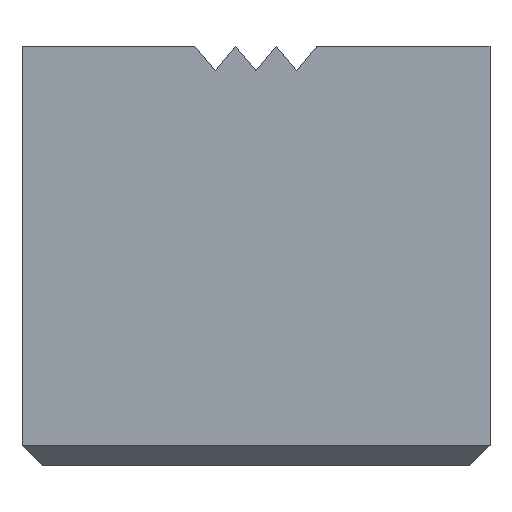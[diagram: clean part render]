
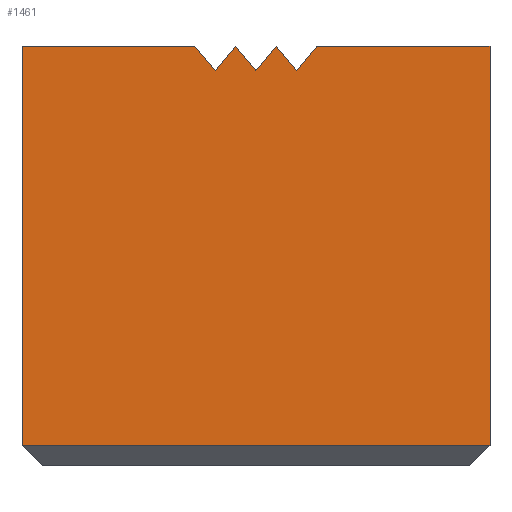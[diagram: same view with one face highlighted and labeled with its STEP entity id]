
A CAD part, front view. The second image highlights one B-rep face of the part: STEP entity #1461.
In plain terms, the highlighted planar face has unit normal (0, -1, 0).
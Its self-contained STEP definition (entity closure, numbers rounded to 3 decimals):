
#437=CARTESIAN_POINT('',(-4.765,-4.765,-2.675));
#438=VERTEX_POINT('',#437);
#445=CARTESIAN_POINT('',(-4.765,-4.765,7.145));
#446=VERTEX_POINT('',#445);
#447=CARTESIAN_POINT('',(-4.765,-4.765,-2.675));
#448=DIRECTION('',(0.0,0.0,1.0));
#449=VECTOR('',#448,9.82);
#450=LINE('',#447,#449);
#451=EDGE_CURVE('',#438,#446,#450,.T.);
#491=CARTESIAN_POINT('',(2.487,-4.765,7.145));
#492=VERTEX_POINT('',#491);
#499=CARTESIAN_POINT('',(6.745,-4.765,7.145));
#500=VERTEX_POINT('',#499);
#501=CARTESIAN_POINT('',(6.745,-4.765,7.145));
#502=DIRECTION('',(-1.0,0.0,0.0));
#503=VECTOR('',#502,4.258);
#504=LINE('',#501,#503);
#505=EDGE_CURVE('',#500,#492,#504,.T.);
#584=CARTESIAN_POINT('',(1.99,-4.765,6.545));
#585=VERTEX_POINT('',#584);
#592=CARTESIAN_POINT('',(2.487,-4.765,7.145));
#593=DIRECTION('',(-0.638,0.0,-0.77));
#594=VECTOR('',#593,0.779);
#595=LINE('',#592,#594);
#596=EDGE_CURVE('',#492,#585,#595,.T.);
#608=CARTESIAN_POINT('',(1.487,-4.765,7.145));
#609=VERTEX_POINT('',#608);
#616=CARTESIAN_POINT('',(1.99,-4.765,6.545));
#617=DIRECTION('',(-0.643,0.0,0.766));
#618=VECTOR('',#617,0.783);
#619=LINE('',#616,#618);
#620=EDGE_CURVE('',#585,#609,#619,.T.);
#948=CARTESIAN_POINT('',(6.745,-4.765,-2.675));
#949=VERTEX_POINT('',#948);
#950=CARTESIAN_POINT('',(6.745,-4.765,-2.675));
#951=DIRECTION('',(0.0,0.0,1.0));
#952=VECTOR('',#951,9.82);
#953=LINE('',#950,#952);
#954=EDGE_CURVE('',#949,#500,#953,.T.);
#1348=CARTESIAN_POINT('',(-0.01,-4.765,6.545));
#1349=VERTEX_POINT('',#1348);
#1356=CARTESIAN_POINT('',(0.487,-4.765,7.145));
#1357=VERTEX_POINT('',#1356);
#1358=CARTESIAN_POINT('',(0.487,-4.765,7.145));
#1359=DIRECTION('',(-0.638,0.0,-0.77));
#1360=VECTOR('',#1359,0.779);
#1361=LINE('',#1358,#1360);
#1362=EDGE_CURVE('',#1357,#1349,#1361,.T.);
#1379=CARTESIAN_POINT('',(-0.513,-4.765,7.145));
#1380=VERTEX_POINT('',#1379);
#1387=CARTESIAN_POINT('',(-0.01,-4.765,6.545));
#1388=DIRECTION('',(-0.643,0.0,0.766));
#1389=VECTOR('',#1388,0.783);
#1390=LINE('',#1387,#1389);
#1391=EDGE_CURVE('',#1349,#1380,#1390,.T.);
#1421=CARTESIAN_POINT('',(4.765,-4.765,-3.175));
#1422=DIRECTION('',(0.0,-1.0,0.0));
#1423=DIRECTION('',(0.0,0.0,-1.0));
#1424=AXIS2_PLACEMENT_3D('',#1421,#1422,#1423);
#1425=PLANE('',#1424);
#1426=ORIENTED_EDGE('',*,*,#1362,.T.);
#1427=ORIENTED_EDGE('',*,*,#1391,.T.);
#1428=CARTESIAN_POINT('',(-0.513,-4.765,7.145));
#1429=DIRECTION('',(-1.0,0.0,0.0));
#1430=VECTOR('',#1429,4.252);
#1431=LINE('',#1428,#1430);
#1432=EDGE_CURVE('',#1380,#446,#1431,.T.);
#1433=ORIENTED_EDGE('',*,*,#1432,.T.);
#1434=ORIENTED_EDGE('',*,*,#451,.F.);
#1435=CARTESIAN_POINT('',(6.745,-4.765,-2.675));
#1436=DIRECTION('',(-1.0,0.0,0.0));
#1437=VECTOR('',#1436,11.51);
#1438=LINE('',#1435,#1437);
#1439=EDGE_CURVE('',#949,#438,#1438,.T.);
#1440=ORIENTED_EDGE('',*,*,#1439,.F.);
#1441=ORIENTED_EDGE('',*,*,#954,.T.);
#1442=ORIENTED_EDGE('',*,*,#505,.T.);
#1443=ORIENTED_EDGE('',*,*,#596,.T.);
#1444=ORIENTED_EDGE('',*,*,#620,.T.);
#1445=CARTESIAN_POINT('',(0.99,-4.765,6.545));
#1446=VERTEX_POINT('',#1445);
#1447=CARTESIAN_POINT('',(1.487,-4.765,7.145));
#1448=DIRECTION('',(-0.638,0.0,-0.77));
#1449=VECTOR('',#1448,0.779);
#1450=LINE('',#1447,#1449);
#1451=EDGE_CURVE('',#609,#1446,#1450,.T.);
#1452=ORIENTED_EDGE('',*,*,#1451,.T.);
#1453=CARTESIAN_POINT('',(0.99,-4.765,6.545));
#1454=DIRECTION('',(-0.643,0.0,0.766));
#1455=VECTOR('',#1454,0.783);
#1456=LINE('',#1453,#1455);
#1457=EDGE_CURVE('',#1446,#1357,#1456,.T.);
#1458=ORIENTED_EDGE('',*,*,#1457,.T.);
#1459=EDGE_LOOP('',(#1426,#1427,#1433,#1434,#1440,#1441,#1442,#1443,#1444,#1452,#1458));
#1460=FACE_OUTER_BOUND('',#1459,.T.);
#1461=ADVANCED_FACE('',(#1460),#1425,.T.);
